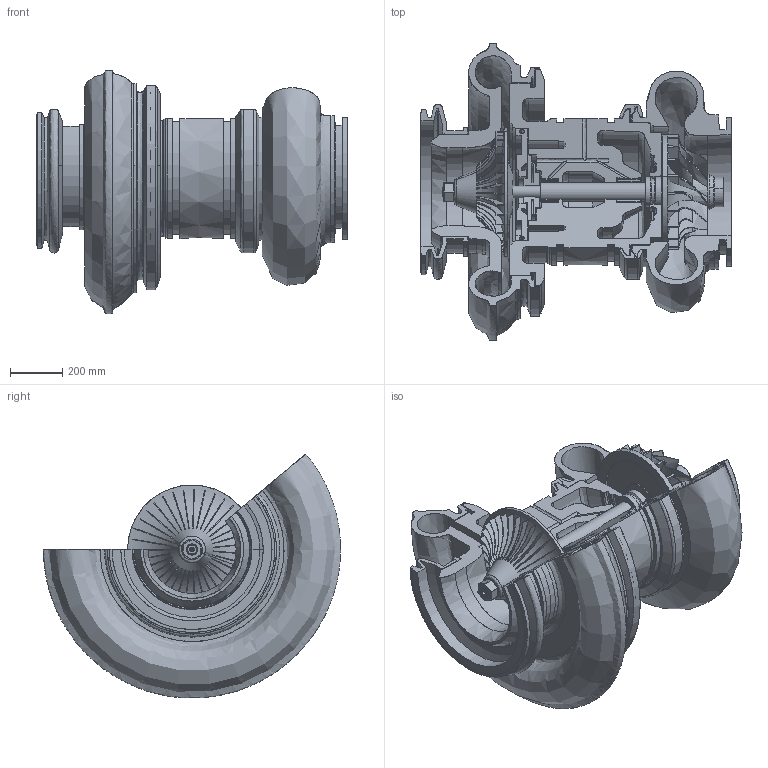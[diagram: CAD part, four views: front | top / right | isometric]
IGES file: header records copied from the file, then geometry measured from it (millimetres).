
Start section: SolidWorks IGES file using analytic representation for surfaces
Global section: file name: C:\Users\Mech\Desktop\Turbocharger.IGS; native system: SolidWorks 2014; preprocessor: SolidWorks 2014; author: Mech; date: 140927.135649; units: millimetre
Bounding box: 1189.1 x 1138.68 x 935.11 mm (x, y, z)
Surface area: 11588812.1 mm2 (no closed solid volume)
Topology: 0 solids, 0 shells, 848 faces, 17793 edges, 17792 vertices
Faces by surface type: bspline 596, revolution 252
